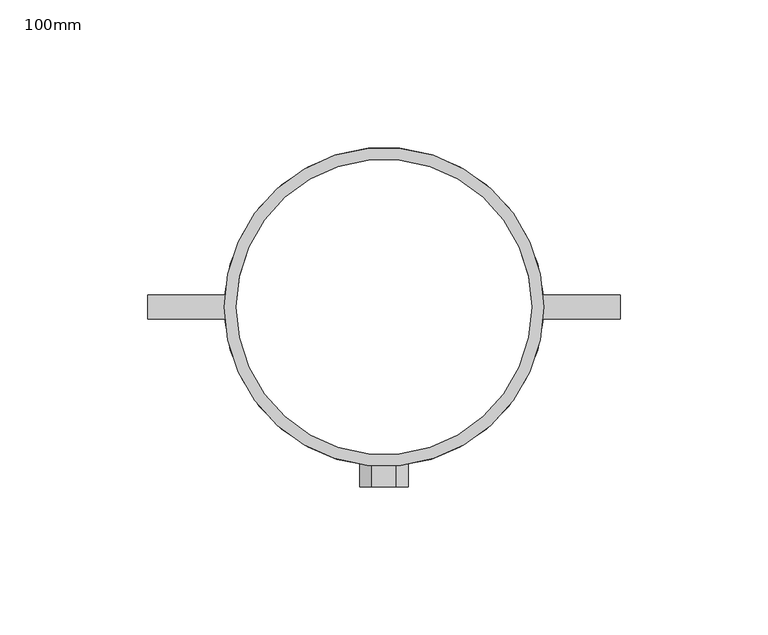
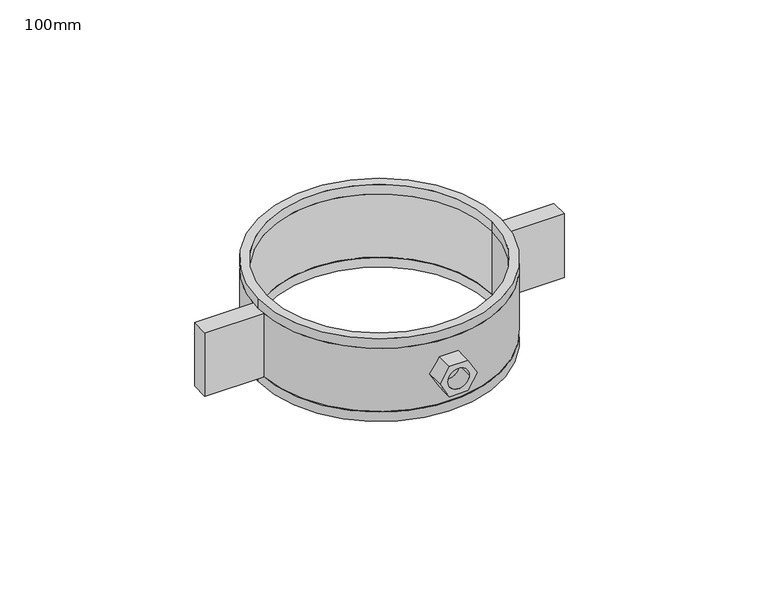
"""IFC4 building model written with IfcOpenShell, lengths in millimetres: pipe fitting geometry, AmancoWavin_AccesóriosdoTubo_QSSuporteFixoVertical : 100mm."""

from ifc_helpers import new_model, si_unit, point, frame, origin, origin_2d, place, context, project, spatial, polyline, circle_curve, trimmed, segment, composite_curve, outline, extrude, source, transform, mapped, element, save


def pipe_fitting_100mm_1dd35341(model_context):
    return source(origin(), model_context, "Body", "SweptSolid", [
        extrude(outline(polyline([(0.0, -8.2561088), (-7.15, -4.1280544), (-7.15, 4.1280544), (0.0, 8.2561088), (7.15, 4.1280544), (7.15, -4.1280544), (0.0, -8.2561088)]), holes=[composite_curve([segment(trimmed(circle_curve(origin_2d(), 4.75), [point((0.0, -4.75))], [point((0.0, 4.75))], True, "CARTESIAN"), True, "CONTINUOUS"), segment(trimmed(circle_curve(origin_2d(), 4.75), [point((0.0, 4.75))], [point((0.0, -4.75))], True, "CARTESIAN"), True, "CONTINUOUS")], self_intersect=False)]), frame((0.0, -61.0, 0.0), z_axis=(0.0, 1.0, 0.0), x_axis=(0.0, 0.0, 1.0)), (0.0, 0.0, 1.0), 11.0),
        extrude(outline(composite_curve([segment(trimmed(circle_curve(origin_2d(), 54.0), [point((-54.0, 0.0))], [point((54.0, 0.0))], False, "CARTESIAN"), True, "CONTINUOUS"), segment(trimmed(circle_curve(origin_2d(), 54.0), [point((54.0, 0.0))], [point((-54.0, 0.0))], False, "CARTESIAN"), True, "CONTINUOUS")], self_intersect=False), holes=[composite_curve([segment(trimmed(circle_curve(origin_2d(), 50.0), [point((-50.0, 0.0))], [point((50.0, 0.0))], True, "CARTESIAN"), True, "CONTINUOUS"), segment(trimmed(circle_curve(origin_2d(), 50.0), [point((50.0, 0.0))], [point((-50.0, 0.0))], True, "CARTESIAN"), True, "CONTINUOUS")], self_intersect=False)]), frame((0.0, 0.0, -19.5), z_axis=(0.0, 0.0, 1.0), x_axis=(1.0, 0.0, 0.0)), (0.0, 0.0, 1.0), 4.5),
        extrude(outline(composite_curve([segment(trimmed(circle_curve(origin_2d(), 54.0), [point((-54.0, 0.0))], [point((54.0, 0.0))], False, "CARTESIAN"), True, "CONTINUOUS"), segment(trimmed(circle_curve(origin_2d(), 54.0), [point((54.0, 0.0))], [point((-54.0, 0.0))], False, "CARTESIAN"), True, "CONTINUOUS")], self_intersect=False), holes=[composite_curve([segment(trimmed(circle_curve(origin_2d(), 50.0), [point((-50.0, 0.0))], [point((50.0, 0.0))], True, "CARTESIAN"), True, "CONTINUOUS"), segment(trimmed(circle_curve(origin_2d(), 50.0), [point((50.0, 0.0))], [point((-50.0, 0.0))], True, "CARTESIAN"), True, "CONTINUOUS")], self_intersect=False)]), frame((0.0, 0.0, 15.0), z_axis=(0.0, 0.0, 1.0), x_axis=(1.0, 0.0, 0.0)), (0.0, 0.0, 1.0), 4.5),
        extrude(outline(composite_curve([segment(trimmed(circle_curve(origin_2d(), 54.0), [point((53.8516481, -4.0))], [point((-53.8516481, -4.0))], False, "CARTESIAN"), True, "CONTINUOUS"), segment(polyline([(-53.8516481, -4.0), (-80.0, -4.0), (-80.0, 4.0), (-53.8516481, 4.0)]), True, "CONTINUOUS"), segment(trimmed(circle_curve(origin_2d(), 54.0), [point((-53.8516481, 4.0))], [point((53.8516481, 4.0))], False, "CARTESIAN"), True, "CONTINUOUS"), segment(polyline([(53.8516481, 4.0), (80.0, 4.0), (80.0, -4.0), (53.8516481, -4.0)]), True, "CONTINUOUS")], self_intersect=False), holes=[composite_curve([segment(trimmed(circle_curve(origin_2d(), 50.0), [point((-50.0, 0.0))], [point((50.0, 0.0))], True, "CARTESIAN"), True, "CONTINUOUS"), segment(trimmed(circle_curve(origin_2d(), 50.0), [point((50.0, 0.0))], [point((-50.0, 0.0))], True, "CARTESIAN"), True, "CONTINUOUS")], self_intersect=False)]), frame((0.0, 0.0, -15.0), z_axis=(0.0, 0.0, 1.0), x_axis=(1.0, 0.0, 0.0)), (0.0, 0.0, 1.0), 30.0),
    ])


if __name__ == "__main__":
    model = new_model("IFC4")
    model_context = context("Model", 3, world=origin())
    ifc_project = project(units=[si_unit("LENGTHUNIT", "METRE", prefix="MILLI")], contexts=[model_context])
    site = spatial("IfcSite", under=ifc_project)
    building = spatial("IfcBuilding", under=site)
    placement = place(None, origin())
    pipe_fitting_100mm_shape = pipe_fitting_100mm_1dd35341(model_context)
    element("IfcPipeFitting", 1, ObjectType="AmancoWavin_AccesóriosdoTubo_QSSuporteFixoVertical : 100mm", at=placement, inside=building, context=model_context, shape_type="MappedRepresentation", body=[
        mapped(pipe_fitting_100mm_shape, transform((0.0, 0.0, 0.0), x_axis=(1.0, 0.0, 0.0), y_axis=(0.0, 1.0, 0.0), z_axis=(0.0, 0.0, 1.0))),
    ])
    save(model, "model.ifc")
